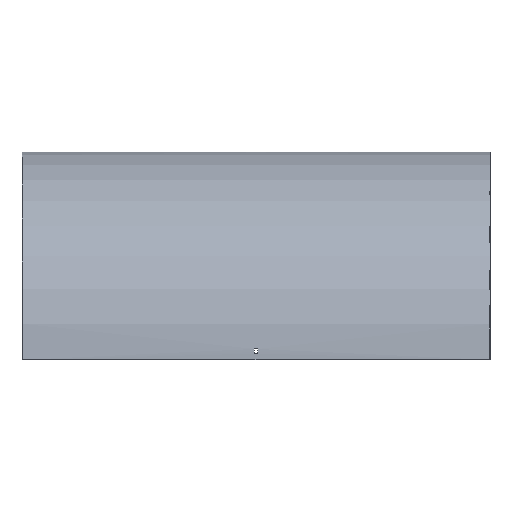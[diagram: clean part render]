
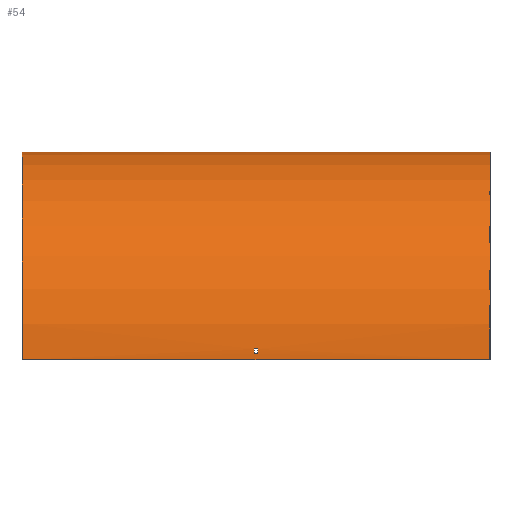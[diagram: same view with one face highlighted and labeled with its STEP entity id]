
A CAD part, top view. The second image highlights one B-rep face of the part: STEP entity #54.
In plain terms, the highlighted cylindrical face has radius 401.5 mm (diameter 803 mm), a partial arc.
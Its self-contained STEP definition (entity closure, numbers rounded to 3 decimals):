
#1 = VECTOR ( 'NONE', #224, 1000. ) ;
#2 = VERTEX_POINT ( 'NONE', #94 ) ;
#4 = VECTOR ( 'NONE', #586, 1000. ) ;
#5 = VERTEX_POINT ( 'NONE', #141 ) ;
#9 = CARTESIAN_POINT ( 'NONE',  ( -451.5, 0., 0. ) ) ;
#15 = FACE_BOUND ( 'NONE', #238, .T. ) ;
#23 = VERTEX_POINT ( 'NONE', #605 ) ;
#24 = CARTESIAN_POINT ( 'NONE',  ( 451.5, -401.5, 401.5 ) ) ;
#27 = DIRECTION ( 'NONE',  ( 0., 0., -1. ) ) ;
#30 = DIRECTION ( 'NONE',  ( 1., 0., 0. ) ) ;
#34 = LINE ( 'NONE', #174, #1 ) ;
#45 = ORIENTED_EDGE ( 'NONE', *, *, #411, .F. ) ;
#53 = EDGE_LOOP ( 'NONE', ( #326, #216, #498, #584 ) ) ;
#54 = ADVANCED_FACE ( 'NONE', ( #246, #304, #15 ), #201, .T. ) ;
#58 = VECTOR ( 'NONE', #479, 1000. ) ;
#60 = EDGE_CURVE ( 'NONE', #425, #313, #171, .T. ) ;
#65 = CARTESIAN_POINT ( 'NONE',  ( 451.5, -401.5, 401.5 ) ) ;
#70 = DIRECTION ( 'NONE',  ( 0., 0., 1. ) ) ;
#79 = EDGE_CURVE ( 'NONE', #2, #555, #430, .T. ) ;
#94 = CARTESIAN_POINT ( 'NONE',  ( 3.25, -389.5, 401.321 ) ) ;
#101 = EDGE_CURVE ( 'NONE', #23, #603, #323, .T. ) ;
#103 = VECTOR ( 'NONE', #117, 1000. ) ;
#110 = DIRECTION ( 'NONE',  ( 0., 0., 1. ) ) ;
#113 = DIRECTION ( 'NONE',  ( -1., 0., 0. ) ) ;
#114 = EDGE_CURVE ( 'NONE', #603, #560, #518, .T. ) ;
#117 = DIRECTION ( 'NONE',  ( 1., 0., 0. ) ) ;
#120 = DIRECTION ( 'NONE',  ( -1., 0., 0. ) ) ;
#127 = CARTESIAN_POINT ( 'NONE',  ( -451.5, -401.5, 0. ) ) ;
#140 = ORIENTED_EDGE ( 'NONE', *, *, #465, .F. ) ;
#141 = CARTESIAN_POINT ( 'NONE',  ( -3.25, -0.179, 12. ) ) ;
#149 = CARTESIAN_POINT ( 'NONE',  ( 3.25, -401.5, 0. ) ) ;
#153 = DIRECTION ( 'NONE',  ( 0., 0., 1. ) ) ;
#159 = CARTESIAN_POINT ( 'NONE',  ( -3.25, -389.5, 401.321 ) ) ;
#160 = LINE ( 'NONE', #530, #378 ) ;
#170 = DIRECTION ( 'NONE',  ( 0., 1., 0. ) ) ;
#171 = CIRCLE ( 'NONE', #226, 401.5 ) ;
#174 = CARTESIAN_POINT ( 'NONE',  ( 451.5, 0., 0. ) ) ;
#198 = CARTESIAN_POINT ( 'NONE',  ( 3.25, -401.5, 0. ) ) ;
#201 = CYLINDRICAL_SURFACE ( 'NONE', #274, 401.5 ) ;
#203 = DIRECTION ( 'NONE',  ( 0., 0., -1. ) ) ;
#213 = EDGE_CURVE ( 'NONE', #425, #385, #34, .T. ) ;
#216 = ORIENTED_EDGE ( 'NONE', *, *, #314, .T. ) ;
#222 = AXIS2_PLACEMENT_3D ( 'NONE', #127, #540, #27 ) ;
#224 = DIRECTION ( 'NONE',  ( -1., 0., 0. ) ) ;
#226 = AXIS2_PLACEMENT_3D ( 'NONE', #431, #290, #203 ) ;
#234 = EDGE_CURVE ( 'NONE', #555, #546, #160, .T. ) ;
#236 = ORIENTED_EDGE ( 'NONE', *, *, #454, .T. ) ;
#238 = EDGE_LOOP ( 'NONE', ( #140, #445, #464, #607 ) ) ;
#246 = FACE_OUTER_BOUND ( 'NONE', #335, .T. ) ;
#249 = CARTESIAN_POINT ( 'NONE',  ( 451.5, -401.5, 0. ) ) ;
#253 = CARTESIAN_POINT ( 'NONE',  ( 451.5, -0.55, 21. ) ) ;
#274 = AXIS2_PLACEMENT_3D ( 'NONE', #249, #113, #153 ) ;
#277 = CARTESIAN_POINT ( 'NONE',  ( -3.25, -401.5, 0. ) ) ;
#286 = VERTEX_POINT ( 'NONE', #159 ) ;
#288 = ORIENTED_EDGE ( 'NONE', *, *, #60, .F. ) ;
#290 = DIRECTION ( 'NONE',  ( 1., 0., 0. ) ) ;
#292 = AXIS2_PLACEMENT_3D ( 'NONE', #277, #30, #170 ) ;
#301 = DIRECTION ( 'NONE',  ( 1., 0., 0. ) ) ;
#304 = FACE_BOUND ( 'NONE', #53, .T. ) ;
#307 = EDGE_CURVE ( 'NONE', #5, #23, #349, .T. ) ;
#312 = CARTESIAN_POINT ( 'NONE',  ( 3.25, -380.5, 400.95 ) ) ;
#313 = VERTEX_POINT ( 'NONE', #24 ) ;
#314 = EDGE_CURVE ( 'NONE', #560, #5, #451, .T. ) ;
#322 = CARTESIAN_POINT ( 'NONE',  ( -3.25, -380.5, 400.95 ) ) ;
#323 = CIRCLE ( 'NONE', #336, 401.5 ) ;
#326 = ORIENTED_EDGE ( 'NONE', *, *, #114, .T. ) ;
#331 = VECTOR ( 'NONE', #486, 1000. ) ;
#335 = EDGE_LOOP ( 'NONE', ( #236, #45, #288, #506 ) ) ;
#336 = AXIS2_PLACEMENT_3D ( 'NONE', #198, #301, #389 ) ;
#349 = LINE ( 'NONE', #396, #103 ) ;
#365 = CARTESIAN_POINT ( 'NONE',  ( -451.5, -401.5, 401.5 ) ) ;
#378 = VECTOR ( 'NONE', #120, 1000. ) ;
#382 = AXIS2_PLACEMENT_3D ( 'NONE', #480, #392, #70 ) ;
#385 = VERTEX_POINT ( 'NONE', #9 ) ;
#389 = DIRECTION ( 'NONE',  ( 0., 0., -1. ) ) ;
#392 = DIRECTION ( 'NONE',  ( -1., 0., 0. ) ) ;
#396 = CARTESIAN_POINT ( 'NONE',  ( 451.5, -0.179, 12. ) ) ;
#405 = CARTESIAN_POINT ( 'NONE',  ( 451.5, -389.5, 401.321 ) ) ;
#406 = CIRCLE ( 'NONE', #222, 401.5 ) ;
#411 = EDGE_CURVE ( 'NONE', #313, #412, #477, .T. ) ;
#412 = VERTEX_POINT ( 'NONE', #365 ) ;
#425 = VERTEX_POINT ( 'NONE', #543 ) ;
#430 = CIRCLE ( 'NONE', #472, 401.5 ) ;
#431 = CARTESIAN_POINT ( 'NONE',  ( 451.5, -401.5, 0. ) ) ;
#442 = EDGE_CURVE ( 'NONE', #286, #2, #456, .T. ) ;
#445 = ORIENTED_EDGE ( 'NONE', *, *, #234, .F. ) ;
#451 = CIRCLE ( 'NONE', #382, 401.5 ) ;
#454 = EDGE_CURVE ( 'NONE', #385, #412, #406, .T. ) ;
#456 = LINE ( 'NONE', #405, #331 ) ;
#464 = ORIENTED_EDGE ( 'NONE', *, *, #79, .F. ) ;
#465 = EDGE_CURVE ( 'NONE', #546, #286, #565, .T. ) ;
#472 = AXIS2_PLACEMENT_3D ( 'NONE', #149, #527, #110 ) ;
#477 = LINE ( 'NONE', #65, #4 ) ;
#479 = DIRECTION ( 'NONE',  ( -1., 0., 0. ) ) ;
#480 = CARTESIAN_POINT ( 'NONE',  ( -3.25, -401.5, 0. ) ) ;
#486 = DIRECTION ( 'NONE',  ( 1., 0., 0. ) ) ;
#498 = ORIENTED_EDGE ( 'NONE', *, *, #307, .T. ) ;
#501 = CARTESIAN_POINT ( 'NONE',  ( -3.25, -0.55, 21. ) ) ;
#506 = ORIENTED_EDGE ( 'NONE', *, *, #213, .T. ) ;
#518 = LINE ( 'NONE', #253, #58 ) ;
#527 = DIRECTION ( 'NONE',  ( -1., 0., 0. ) ) ;
#530 = CARTESIAN_POINT ( 'NONE',  ( 451.5, -380.5, 400.95 ) ) ;
#540 = DIRECTION ( 'NONE',  ( 1., 0., 0. ) ) ;
#543 = CARTESIAN_POINT ( 'NONE',  ( 451.5, 0., 0. ) ) ;
#546 = VERTEX_POINT ( 'NONE', #322 ) ;
#555 = VERTEX_POINT ( 'NONE', #312 ) ;
#559 = CARTESIAN_POINT ( 'NONE',  ( 3.25, -0.55, 21. ) ) ;
#560 = VERTEX_POINT ( 'NONE', #501 ) ;
#565 = CIRCLE ( 'NONE', #292, 401.5 ) ;
#584 = ORIENTED_EDGE ( 'NONE', *, *, #101, .T. ) ;
#586 = DIRECTION ( 'NONE',  ( -1., 0., 0. ) ) ;
#603 = VERTEX_POINT ( 'NONE', #559 ) ;
#605 = CARTESIAN_POINT ( 'NONE',  ( 3.25, -0.179, 12. ) ) ;
#607 = ORIENTED_EDGE ( 'NONE', *, *, #442, .F. ) ;
